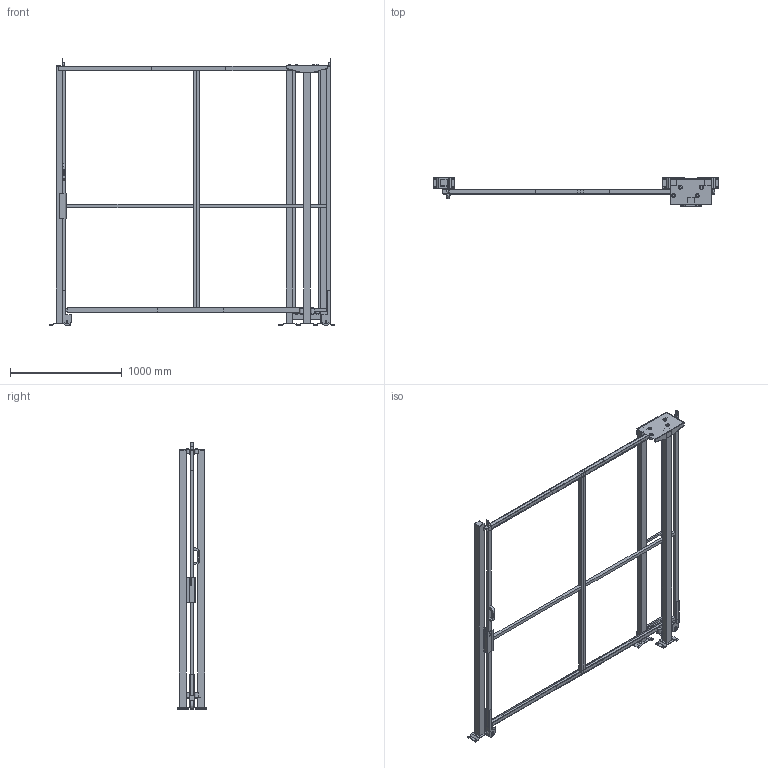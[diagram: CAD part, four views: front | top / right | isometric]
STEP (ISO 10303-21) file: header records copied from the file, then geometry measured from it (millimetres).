
FILE_DESCRIPTION(/* description */ (''),/* implementation_level */ '2;1');
FILE_NAME(/* name */ 'C:\SafeGuarding\ELABORATI\KLADKA_2025-03-20-08-41-49.stp',/* time_stamp */ '2025-03-20T08:41:53+01:00',/* author */ ('admin'),/* organization */ (''),/* preprocessor_version */ 'ST-DEVELOPER v18.1',/* originating_system */ 'AutoCAD Mechanical',/* authorisation */ '');
FILE_SCHEMA (('AUTOMOTIVE_DESIGN { 1 0 10303 214 3 1 1 }'));
Length unit declared in the file: millimetre
Products named in the file (4): Product; R_VFPA.REPE30.12002200; R_VFPA.REPE20.02502200; P_VFMA.V360SDU.2320
Assembly tree (7 placements, depth 2):
  Product
    R_VFPA.REPE30.12002200  x2
    R_VFPA.REPE20.02502200
    P_VFMA.V360SDU.2320  x4
Bounding box: 2562.03 x 264.11 x 2390.02 mm (x, y, z)
Volume: 52822054.2 mm3; surface area: 6895603.9 mm2
Topology: 60 solids, 71 shells, 549 faces, 1712 edges, 1735 vertices
Faces by surface type: plane 497, cylinder 50, sphere 2
Full cylindrical faces by diameter (mm): 9 x4, 11 x16, 13 x4, 30 x6, 36 x8, 80 x2
Entity records: 14551 total; most frequent: CARTESIAN_POINT 3057, DIRECTION 2220, ORIENTED_EDGE 2058, EDGE_CURVE 1078, LINE 1052, VECTOR 1052, VERTEX_POINT 758, AXIS2_PLACEMENT_3D 584
